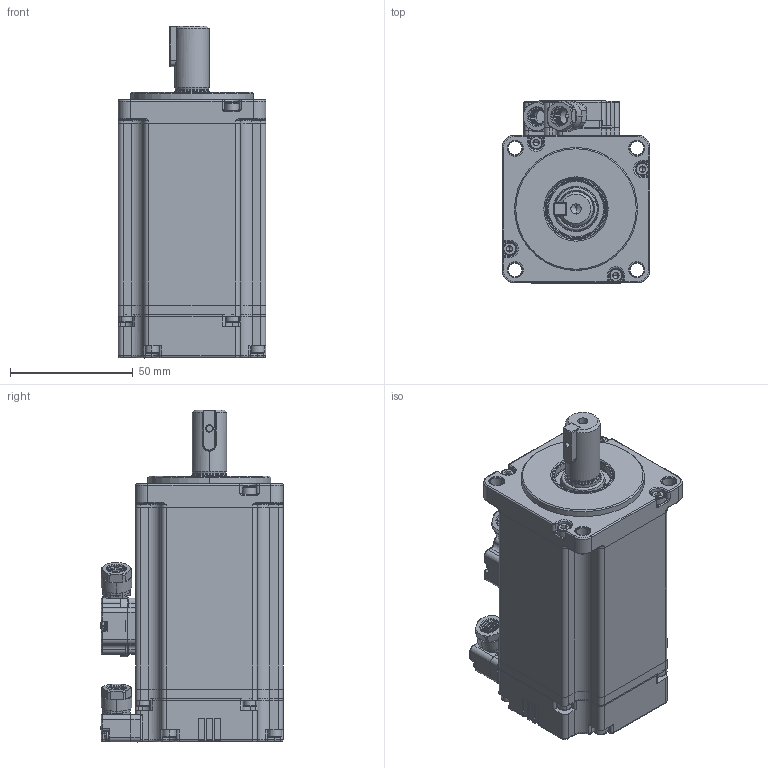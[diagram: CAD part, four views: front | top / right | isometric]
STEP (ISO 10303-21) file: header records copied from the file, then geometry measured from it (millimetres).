
FILE_DESCRIPTION((''),'2;1');
FILE_NAME('MS1H4-40B30CB-A331Z-S_ASM','2019-04-28T15:11:06',('w14852'),(''),'CREO PARAMETRIC BY PTC INC, 2017260','CREO PARAMETRIC BY PTC INC, 2017260','');
FILE_SCHEMA(('CONFIG_CONTROL_DESIGN'));
Products named in the file (47): 31070506-LJ_4_1; 31040362-ZP_ASM_4_ASM_1_ASM; 31150017-LJ-1_4_1; 31230071-ZP-1_ASM_4_ASM_1_ASM; 31160250-ZP-1_ASM_4_ASM_1_ASM; 31090516_ASM_4_ASM_1_ASM; 22050005-LJ_4_1; 15110325_4_4_1; 15110325_5_4_1; 15110325_6_4_1; 15110325_8_4_1; 15110325_ASM_4_ASM_1_ASM; 22060786_4_1; 22060548-LJ_4_1; 31010461_ASM_4_ASM_1_ASM; 31740004-LJ_4_1; 22060785_4_1; 31100212_4_1; 31100214_4_1; 31100214_1_4_1; 31100214_2_4_1; 31100214_ASM_4_ASM_1_ASM; 21E8-701-6183-R5_1_3_1; 21E8-772-1511-A1_1_3_1; 21E8-370-3984-R5_1_3_1; 21E8-774-1498-A1_1_3_1; 05-01-1598_1_3_1; 21E5-904-12686-B1_ASM_4_ASM_3_A_ASM; 21E8-005-1073-P4_3_1; 7PINS_PLUG_ASM_8_ASM_3_ASM_1_ASM; 21E8-370-3976-A1_1_3_1; 21E8-774-1498-P4_1_3_1; 21E8-701-6171-A1_1_3_1; 21E8-900-2468-A1_1_3_1; 21E8-950-1439-A1_1_3_1; 21E8-950-1438-A1_1_3_1; 21E8-005-1072-P4_3_1; 6PINS_PLUG_ASM_1_ASM_ASM_3_ASM__ASM; 1716920106_2_ASM_1_ASM; 01110855_ASM_4_ASM_1_ASM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
Assembly tree (62 placements, depth 8):
  MS1H4-40B30CB-A331Z-S_ASM
    MS1H4-40B30CB-A331Z-S_ASM_1_ASM
      01110855_ASM_4_ASM_1_ASM
        31040362-ZP_ASM_4_ASM_1_ASM
          31070506-LJ_4_1
        31010461_ASM_4_ASM_1_ASM
          31090516_ASM_4_ASM_1_ASM
            31160250-ZP-1_ASM_4_ASM_1_ASM
              31230071-ZP-1_ASM_4_ASM_1_ASM
                31150017-LJ-1_4_1
          22050005-LJ_4_1  x4
          15110325_ASM_4_ASM_1_ASM
            15110325_4_4_1
            15110325_5_4_1
            15110325_6_4_1
            15110325_8_4_1
          22060786_4_1
          22060548-LJ_4_1  x2
        31740004-LJ_4_1
        22060785_4_1  x4
        22050005-LJ_4_1  x4
        31100212_4_1
        31100214_ASM_4_ASM_1_ASM
          31100214_4_1
          31100214_1_4_1
          31100214_2_4_1
        7PINS_PLUG_ASM_8_ASM_3_ASM_1_ASM
          21E5-904-12686-B1_ASM_4_ASM_3_A_ASM
            21E8-701-6183-R5_1_3_1
            21E8-772-1511-A1_1_3_1
            21E8-370-3984-R5_1_3_1
            21E8-774-1498-A1_1_3_1
            05-01-1598_1_3_1  x2
          21E8-005-1073-P4_3_1
        6PINS_PLUG_ASM_1_ASM_ASM_3_ASM__ASM
          21E8-370-3976-A1_1_3_1
          21E8-772-1511-A1_1_3_1
          21E8-774-1498-P4_1_3_1
          21E8-701-6171-A1_1_3_1
          21E8-900-2468-A1_1_3_1  x2
          21E8-950-1439-A1_1_3_1  x2
          21E8-950-1438-A1_1_3_1  x2
          21E8-005-1072-P4_3_1
        1716920106_2_ASM_1_ASM
      22010150--1-SOLI00_1_1_1_1
      31090522_ASM_2_ASM_1_ASM_1_ASM__ASM
        31160146-ZP-1_ASM_2_ASM_1_ASM_1_ASM
          31150148-LJ-1_2_1_1_1
      31090647--1-SOL000_1_1_1
Bounding box: 60 x 74.1 x 135 mm (x, y, z)
Volume: 362153.1 mm3; surface area: 76050 mm2
Topology: 47 solids, 60 shells, 2929 faces, 7680 edges, 4930 vertices
Faces by surface type: plane 1603, cylinder 829, torus 249, cone 148, bspline 51, extrusion 39, sphere 10
Entity records: 85722 total; most frequent: CARTESIAN_POINT 21598, DIRECTION 13518, ORIENTED_EDGE 13142, EDGE_CURVE 6587, AXIS2_PLACEMENT_3D 4695, VERTEX_POINT 4261, VECTOR 4128, LINE 4089
